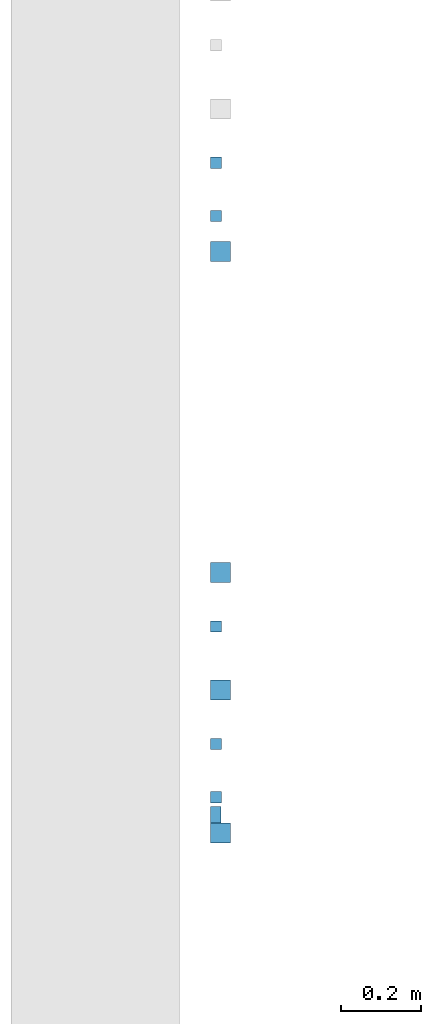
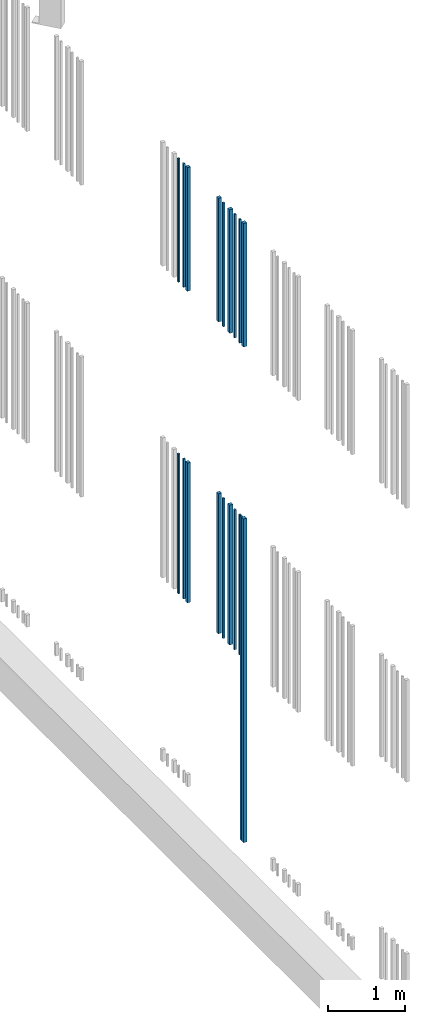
# One storey, part 22 of 124: 19 walls.
"""IFC2X3 building model written with IfcOpenShell, lengths in millimetres."""

from ifc_helpers import new_model, entity, si_unit, converted_unit, derived_unit, money_unit, direction, frame, origin_with_axes, place, context, subcontext, project, spatial, faceted_brep, material, type_object, element, save


model = new_model("IFC2X3")

# Units and contexts
model_context = context("Model", 3, precision=1e-05, world=origin_with_axes(), true_north=direction((0.0, 1.0)))
body_context = subcontext(model_context, "Body", "Model", "MODEL_VIEW")
ifc_project = project(units=[si_unit("LENGTHUNIT", "METRE", prefix="MILLI"), si_unit("AREAUNIT", "SQUARE_METRE"), si_unit("VOLUMEUNIT", "CUBIC_METRE"), converted_unit("PLANEANGLEUNIT", "DEGREE", entity("IfcPlaneAngleMeasure", 0.0174532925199), si_unit("PLANEANGLEUNIT", "RADIAN"), dimensions=[0, 0, 0, 0, 0, 0, 0]), si_unit("SOLIDANGLEUNIT", "STERADIAN"), money_unit("EUR"), converted_unit("TIMEUNIT", "Year", entity("IfcTimeMeasure", 31556926.0), si_unit("TIMEUNIT", "SECOND"), dimensions=[0, 0, 1, 0, 0, 0, 0]), si_unit("MASSUNIT", "GRAM", prefix="KILO"), si_unit("THERMODYNAMICTEMPERATUREUNIT", "DEGREE_CELSIUS"), si_unit("LUMINOUSINTENSITYUNIT", "LUMEN"), si_unit("ENERGYUNIT", "JOULE", prefix="MEGA"), derived_unit("THERMALCONDUCTANCEUNIT", [(si_unit("POWERUNIT", "WATT"), 1), (si_unit("LENGTHUNIT", "METRE"), -1), (si_unit("THERMODYNAMICTEMPERATUREUNIT", "KELVIN"), -1)]), derived_unit("SPECIFICHEATCAPACITYUNIT", [(si_unit("ENERGYUNIT", "JOULE"), 1), (si_unit("MASSUNIT", "GRAM", prefix="KILO"), -1), (si_unit("THERMODYNAMICTEMPERATUREUNIT", "KELVIN"), -1)]), derived_unit("MASSDENSITYUNIT", [(si_unit("MASSUNIT", "GRAM", prefix="KILO"), 1), (si_unit("VOLUMEUNIT", "CUBIC_METRE"), -1)])], contexts=[model_context])

# Site, building, storey
site_placement = place(None, origin_with_axes())
site = spatial("IfcSite", under=ifc_project, at=site_placement, Name="Site", CompositionType="ELEMENT")
building_placement = place(site_placement, origin_with_axes())
building = spatial("IfcBuilding", under=site, at=building_placement, Name="Building", CompositionType="ELEMENT")
storey_placement = place(building_placement, frame((0.0, 0.0, -1615.0), z_axis=(0.0, 0.0, 1.0), x_axis=(1.0, 0.0, 0.0)))
storey = spatial("IfcBuildingStorey", under=building, at=storey_placement, Name="0  korrus", CompositionType="ELEMENT", Elevation=-1615.0)

# Walls
ifc_material = material(Name="Site specified")
wall_type = type_object("IfcWallType", Name="Puitfassaadi ribistik", PredefinedType="NOTDEFINED")
wall_1_placement = place(storey_placement, frame((139788.999995, 53869.9000123, 1715.00000015), z_axis=(0.0, 0.0, 1.0), x_axis=(5.16795808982e-08, -1.0, 0.0)))
element("IfcWall", 1, at=wall_1_placement, inside=storey, type_object=wall_type, material=ifc_material, Name="Site specified", context=body_context, shape_type="Brep", body=[
    faceted_brep([(-20.0993780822, 25.0, 0.0), (-20.0993780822, -1.99999716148, -1.53102641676e-07), (-20.0993780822, -1.99999672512, 5105.99999985), (-20.0993780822, 25.0, 5105.99999985), (20.0993780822, -1.99999923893, -1.46031475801e-06), (-10.0993768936, -1.99999767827, -1.49011691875e-07), (20.0993780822, 25.0, 0.0), (20.0993780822, -1.99999880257, 5105.99999985), (20.0993780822, 25.0, 5105.99999985)], [[[0, 1, 2, 3]], [[4, 5, 1, 0, 6]], [[1, 5, 4, 7, 2]], [[3, 2, 7, 8]], [[3, 8, 6, 0]], [[7, 4, 6, 8]]]),
])
wall_2_placement = place(storey_placement, frame((139801.000018, 55496.8038044, 9530.0), z_axis=(0.0, 0.0, 1.0), x_axis=(5.16795808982e-08, -1.0, 0.0)))
element("IfcWall", 2, at=wall_2_placement, inside=storey, type_object=wall_type, material=ifc_material, Name="Site specified", context=body_context, shape_type="Brep", body=[
    faceted_brep([(14.0, 14.0, 1950.0), (14.0, 14.0, 0.0), (-14.0, 14.0, 0.0), (-14.0, 14.0, 1950.0), (14.0, -14.0, 1950.0), (14.0, -14.0, 0.0), (-14.0, -14.0, 0.0), (-14.0, -14.0, 1950.0)], [[[0, 1, 2, 3]], [[4, 5, 1, 0]], [[2, 1, 5, 6]], [[3, 2, 6, 7]], [[4, 0, 3, 7]], [[7, 6, 5, 4]]]),
])
wall_3_placement = place(storey_placement, frame((139811.999996, 54474.8062666, 4615.0), z_axis=(0.0, 0.0, 1.0), x_axis=(5.16795808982e-08, -1.0, 0.0)))
element("IfcWall", 3, at=wall_3_placement, inside=storey, type_object=wall_type, material=ifc_material, Name="Site specified", context=body_context, shape_type="Brep", body=[
    faceted_brep([(25.0, 25.0, 2206.0), (25.0, 25.0, 0.0), (-25.0, 25.0, 0.0), (-25.0, 25.0, 2206.0), (25.0, -25.0, 2206.0), (25.0, -25.0, 0.0), (-25.0, -25.0, 0.0), (-25.0, -25.0, 2206.0)], [[[0, 1, 2, 3]], [[4, 5, 1, 0]], [[2, 1, 5, 6]], [[3, 2, 6, 7]], [[4, 0, 3, 7]], [[7, 6, 5, 4]]]),
])
for number, where, z_axis, x_axis, name in (
    (4, (139801.000003, 54339.8037755, 4615.0), (0.0, 0.0, 1.0), (5.16795808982e-08, -1.0, 0.0), "Site specified"),
    (5, (139801.000025, 53913.8038053, 4615.0), (0.0, 0.0, 1.0), (5.16795808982e-08, -1.0, 0.0), "Site specified"),
    (6, (139801.000018, 54046.8038044, 4615.0), (0.0, 0.0, 1.0), (5.16795808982e-08, -1.0, 0.0), "Site specified"),
):
    element("IfcWall", number, at=place(storey_placement, frame(where, z_axis=z_axis, x_axis=x_axis)), inside=storey, type_object=wall_type, material=ifc_material, Name=name, context=body_context, shape_type="Brep", body=[
        faceted_brep([(14.0, 14.0, 2206.0), (14.0, 14.0, 0.0), (-14.0, 14.0, 0.0), (-14.0, 14.0, 2206.0), (14.0, -14.0, 2206.0), (14.0, -14.0, 0.0), (-14.0, -14.0, 0.0), (-14.0, -14.0, 2206.0)], [[[0, 1, 2, 3]], [[4, 5, 1, 0]], [[2, 1, 5, 6]], [[3, 2, 6, 7]], [[4, 0, 3, 7]], [[7, 6, 5, 4]]]),
    ])
wall_4_placement = place(storey_placement, frame((139812.000029, 53824.8006354, 1715.00000015), z_axis=(0.0, 0.0, 1.0), x_axis=(5.16795808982e-08, -1.0, 0.0)))
element("IfcWall", 7, at=wall_4_placement, inside=storey, type_object=wall_type, material=ifc_material, Name="Site specified", context=body_context, shape_type="Brep", body=[
    faceted_brep([(-25.0, 25.0, 5105.99999985), (25.0, 25.0, 5105.99999985), (25.0, 25.0, 0.0), (-25.0, 25.0, 0.0), (-25.0, -25.0, 5105.99999985), (25.0, -25.0, 5105.99999985), (25.0, -25.0, 0.0), (-25.0, -25.0, 0.0)], [[[0, 1, 2, 3]], [[4, 5, 1, 0]], [[1, 5, 6, 2]], [[7, 3, 2, 6]], [[4, 0, 3, 7]], [[5, 4, 7, 6]]]),
])
wall_5_placement = place(storey_placement, frame((139812.000011, 54180.8062688, 4615.0), z_axis=(0.0, 0.0, 1.0), x_axis=(5.16795808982e-08, -1.0, 0.0)))
element("IfcWall", 8, at=wall_5_placement, inside=storey, type_object=wall_type, material=ifc_material, Name="Site specified", context=body_context, shape_type="Brep", body=[
    faceted_brep([(25.0, 25.0, 2206.0), (25.0, 25.0, 0.0), (-25.0, 25.0, 0.0), (-25.0, 25.0, 2206.0), (25.0, -25.0, 2206.0), (25.0, -25.0, 0.0), (-25.0, -25.0, 0.0), (-25.0, -25.0, 2206.0)], [[[0, 1, 2, 3]], [[4, 5, 1, 0]], [[2, 1, 5, 6]], [[3, 2, 6, 7]], [[4, 0, 3, 7]], [[7, 6, 5, 4]]]),
])
wall_6_placement = place(storey_placement, frame((139811.999996, 54474.8062666, 9530.0), z_axis=(0.0, 0.0, 1.0), x_axis=(5.16795808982e-08, -1.0, 0.0)))
element("IfcWall", 9, at=wall_6_placement, inside=storey, type_object=wall_type, material=ifc_material, Name="Site specified", context=body_context, shape_type="Brep", body=[
    faceted_brep([(25.0, 25.0, 1950.0), (25.0, 25.0, 0.0), (-25.0, 25.0, 0.0), (-25.0, 25.0, 1950.0), (25.0, -25.0, 1950.0), (25.0, -25.0, 0.0), (-25.0, -25.0, 0.0), (-25.0, -25.0, 1950.0)], [[[0, 1, 2, 3]], [[4, 5, 1, 0]], [[2, 1, 5, 6]], [[3, 2, 6, 7]], [[4, 0, 3, 7]], [[7, 6, 5, 4]]]),
])
for number, where, z_axis, x_axis, name in (
    (10, (139801.000003, 54339.8037755, 9530.0), (0.0, 0.0, 1.0), (5.16795808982e-08, -1.0, 0.0), "Site specified"),
    (11, (139801.000025, 53913.8038053, 9530.0), (0.0, 0.0, 1.0), (5.16795808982e-08, -1.0, 0.0), "Site specified"),
    (12, (139801.000018, 54046.8038044, 9530.0), (0.0, 0.0, 1.0), (5.16795808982e-08, -1.0, 0.0), "Site specified"),
):
    element("IfcWall", number, at=place(storey_placement, frame(where, z_axis=z_axis, x_axis=x_axis)), inside=storey, type_object=wall_type, material=ifc_material, Name=name, context=body_context, shape_type="Brep", body=[
        faceted_brep([(14.0, 14.0, 1950.0), (14.0, 14.0, 0.0), (-14.0, 14.0, 0.0), (-14.0, 14.0, 1950.0), (14.0, -14.0, 1950.0), (14.0, -14.0, 0.0), (-14.0, -14.0, 0.0), (-14.0, -14.0, 1950.0)], [[[0, 1, 2, 3]], [[4, 5, 1, 0]], [[2, 1, 5, 6]], [[3, 2, 6, 7]], [[4, 0, 3, 7]], [[7, 6, 5, 4]]]),
    ])
for number, where, z_axis, x_axis, name in (
    (13, (139812.000029, 53824.8006354, 9530.0), (0.0, 0.0, 1.0), (5.16795808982e-08, -1.0, 0.0), "Site specified"),
    (14, (139812.000011, 54180.8062688, 9530.0), (0.0, 0.0, 1.0), (5.16795808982e-08, -1.0, 0.0), "Site specified"),
):
    element("IfcWall", number, at=place(storey_placement, frame(where, z_axis=z_axis, x_axis=x_axis)), inside=storey, type_object=wall_type, material=ifc_material, Name=name, context=body_context, shape_type="Brep", body=[
        faceted_brep([(25.0, 25.0, 1950.0), (25.0, 25.0, 0.0), (-25.0, 25.0, 0.0), (-25.0, 25.0, 1950.0), (25.0, -25.0, 1950.0), (25.0, -25.0, 0.0), (-25.0, -25.0, 0.0), (-25.0, -25.0, 1950.0)], [[[0, 1, 2, 3]], [[4, 5, 1, 0]], [[2, 1, 5, 6]], [[3, 2, 6, 7]], [[4, 0, 3, 7]], [[7, 6, 5, 4]]]),
    ])
for number, where, z_axis, x_axis, name in (
    (15, (139801.000024, 55363.8038053, 4615.0), (0.0, 0.0, 1.0), (5.16795808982e-08, -1.0, 0.0), "Site specified"),
    (16, (139801.000018, 55496.8038044, 4615.0), (0.0, 0.0, 1.0), (5.16795808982e-08, -1.0, 0.0), "Site specified"),
):
    element("IfcWall", number, at=place(storey_placement, frame(where, z_axis=z_axis, x_axis=x_axis)), inside=storey, type_object=wall_type, material=ifc_material, Name=name, context=body_context, shape_type="Brep", body=[
        faceted_brep([(14.0, 14.0, 2206.0), (14.0, 14.0, 0.0), (-14.0, 14.0, 0.0), (-14.0, 14.0, 2206.0), (14.0, -14.0, 2206.0), (14.0, -14.0, 0.0), (-14.0, -14.0, 0.0), (-14.0, -14.0, 2206.0)], [[[0, 1, 2, 3]], [[4, 5, 1, 0]], [[2, 1, 5, 6]], [[3, 2, 6, 7]], [[4, 0, 3, 7]], [[7, 6, 5, 4]]]),
    ])
wall_7_placement = place(storey_placement, frame((139812.000029, 55274.8006354, 4615.0), z_axis=(0.0, 0.0, 1.0), x_axis=(5.16795808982e-08, -1.0, 0.0)))
element("IfcWall", 17, at=wall_7_placement, inside=storey, type_object=wall_type, material=ifc_material, Name="Site specified", context=body_context, shape_type="Brep", body=[
    faceted_brep([(25.0, 25.0, 2206.0), (25.0, 25.0, 0.0), (-25.0, 25.0, 0.0), (-25.0, 25.0, 2206.0), (25.0, -25.0, 2206.0), (25.0, -25.0, 0.0), (-25.0, -25.0, 0.0), (-25.0, -25.0, 2206.0)], [[[0, 1, 2, 3]], [[4, 5, 1, 0]], [[2, 1, 5, 6]], [[3, 2, 6, 7]], [[4, 0, 3, 7]], [[7, 6, 5, 4]]]),
])
wall_8_placement = place(storey_placement, frame((139801.000024, 55363.8038053, 9530.0), z_axis=(0.0, 0.0, 1.0), x_axis=(5.16795808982e-08, -1.0, 0.0)))
element("IfcWall", 18, at=wall_8_placement, inside=storey, type_object=wall_type, material=ifc_material, Name="Site specified", context=body_context, shape_type="Brep", body=[
    faceted_brep([(14.0, 14.0, 1950.0), (14.0, 14.0, 0.0), (-14.0, 14.0, 0.0), (-14.0, 14.0, 1950.0), (14.0, -14.0, 1950.0), (14.0, -14.0, 0.0), (-14.0, -14.0, 0.0), (-14.0, -14.0, 1950.0)], [[[0, 1, 2, 3]], [[4, 5, 1, 0]], [[2, 1, 5, 6]], [[3, 2, 6, 7]], [[4, 0, 3, 7]], [[7, 6, 5, 4]]]),
])
wall_9_placement = place(storey_placement, frame((139812.000029, 55274.8006354, 9530.0), z_axis=(0.0, 0.0, 1.0), x_axis=(5.16795808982e-08, -1.0, 0.0)))
element("IfcWall", 19, at=wall_9_placement, inside=storey, type_object=wall_type, material=ifc_material, Name="Site specified", context=body_context, shape_type="Brep", body=[
    faceted_brep([(25.0, 25.0, 1950.0), (25.0, 25.0, 0.0), (-25.0, 25.0, 0.0), (-25.0, 25.0, 1950.0), (25.0, -25.0, 1950.0), (25.0, -25.0, 0.0), (-25.0, -25.0, 0.0), (-25.0, -25.0, 1950.0)], [[[0, 1, 2, 3]], [[4, 5, 1, 0]], [[2, 1, 5, 6]], [[3, 2, 6, 7]], [[4, 0, 3, 7]], [[7, 6, 5, 4]]]),
])

save(model, "model.ifc")
